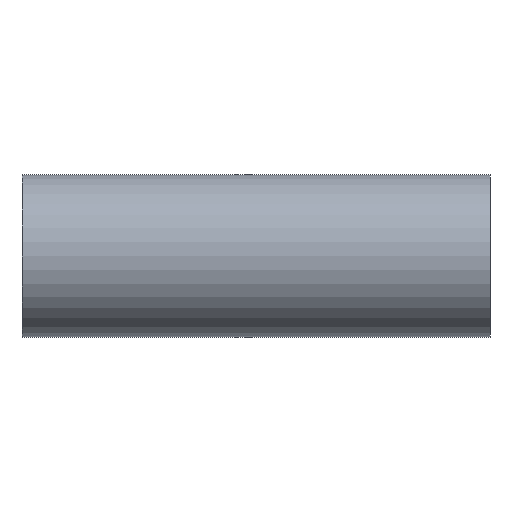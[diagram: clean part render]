
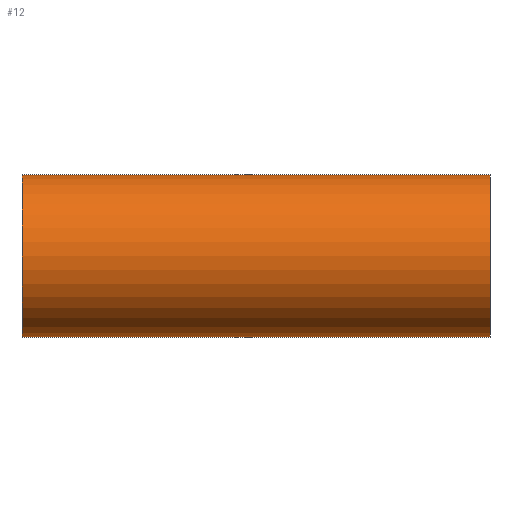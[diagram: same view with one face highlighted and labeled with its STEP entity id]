
A CAD part, front view. The second image highlights one B-rep face of the part: STEP entity #12.
In plain terms, the highlighted cylindrical face has radius 25.4 mm (diameter 50.8 mm), a partial arc.
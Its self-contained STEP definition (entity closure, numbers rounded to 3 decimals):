
#12 = ADVANCED_FACE ( 'NONE', ( #59 ), #510, .T. ) ;
#46 = CARTESIAN_POINT ( 'NONE',  ( -73., 0., -25.4 ) ) ;
#59 = FACE_OUTER_BOUND ( 'NONE', #274, .T. ) ;
#79 = LINE ( 'NONE', #46, #503 ) ;
#81 = EDGE_CURVE ( 'NONE', #386, #270, #186, .T. ) ;
#104 = DIRECTION ( 'NONE',  ( 0., 0., -1. ) ) ;
#149 = DIRECTION ( 'NONE',  ( 1., 0., 0. ) ) ;
#186 = CIRCLE ( 'NONE', #294, 25.4 ) ;
#201 = AXIS2_PLACEMENT_3D ( 'NONE', #278, #149, #104 ) ;
#207 = LINE ( 'NONE', #299, #437 ) ;
#219 = CARTESIAN_POINT ( 'NONE',  ( 73., 0., 0. ) ) ;
#227 = DIRECTION ( 'NONE',  ( -1., 0., 0. ) ) ;
#229 = DIRECTION ( 'NONE',  ( 0., 0., -1. ) ) ;
#230 = DIRECTION ( 'NONE',  ( 1., 0., 0. ) ) ;
#237 = CARTESIAN_POINT ( 'NONE',  ( -73., 0., 25.4 ) ) ;
#255 = CARTESIAN_POINT ( 'NONE',  ( -73., 0., 0. ) ) ;
#268 = DIRECTION ( 'NONE',  ( 1., 0., 0. ) ) ;
#270 = VERTEX_POINT ( 'NONE', #374 ) ;
#274 = EDGE_LOOP ( 'NONE', ( #295, #326, #373, #406 ) ) ;
#278 = CARTESIAN_POINT ( 'NONE',  ( -73., 0., 0. ) ) ;
#283 = DIRECTION ( 'NONE',  ( 1., 0., 0. ) ) ;
#285 = CARTESIAN_POINT ( 'NONE',  ( -73., 0., -25.4 ) ) ;
#294 = AXIS2_PLACEMENT_3D ( 'NONE', #219, #227, #229 ) ;
#295 = ORIENTED_EDGE ( 'NONE', *, *, #511, .F. ) ;
#297 = DIRECTION ( 'NONE',  ( 0., 0., -1. ) ) ;
#299 = CARTESIAN_POINT ( 'NONE',  ( -73., 0., 25.4 ) ) ;
#300 = AXIS2_PLACEMENT_3D ( 'NONE', #255, #268, #297 ) ;
#326 = ORIENTED_EDGE ( 'NONE', *, *, #476, .T. ) ;
#336 = VERTEX_POINT ( 'NONE', #285 ) ;
#373 = ORIENTED_EDGE ( 'NONE', *, *, #533, .T. ) ;
#374 = CARTESIAN_POINT ( 'NONE',  ( 73., 0., 25.4 ) ) ;
#386 = VERTEX_POINT ( 'NONE', #475 ) ;
#406 = ORIENTED_EDGE ( 'NONE', *, *, #81, .T. ) ;
#437 = VECTOR ( 'NONE', #230, 1000. ) ;
#448 = CIRCLE ( 'NONE', #300, 25.4 ) ;
#475 = CARTESIAN_POINT ( 'NONE',  ( 73., 0., -25.4 ) ) ;
#476 = EDGE_CURVE ( 'NONE', #535, #336, #448, .T. ) ;
#503 = VECTOR ( 'NONE', #283, 1000. ) ;
#510 = CYLINDRICAL_SURFACE ( 'NONE', #201, 25.4 ) ;
#511 = EDGE_CURVE ( 'NONE', #535, #270, #207, .T. ) ;
#533 = EDGE_CURVE ( 'NONE', #336, #386, #79, .T. ) ;
#535 = VERTEX_POINT ( 'NONE', #237 ) ;
